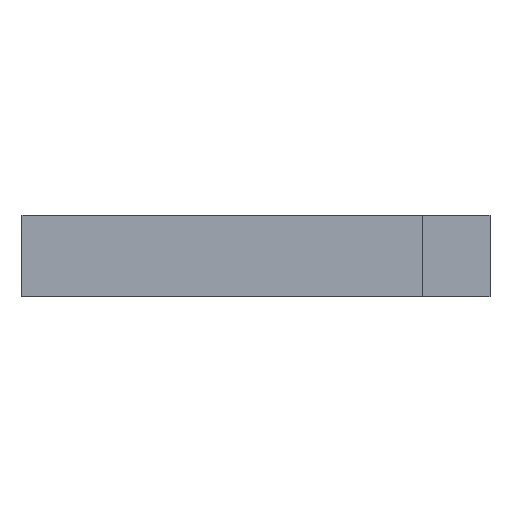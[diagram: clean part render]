
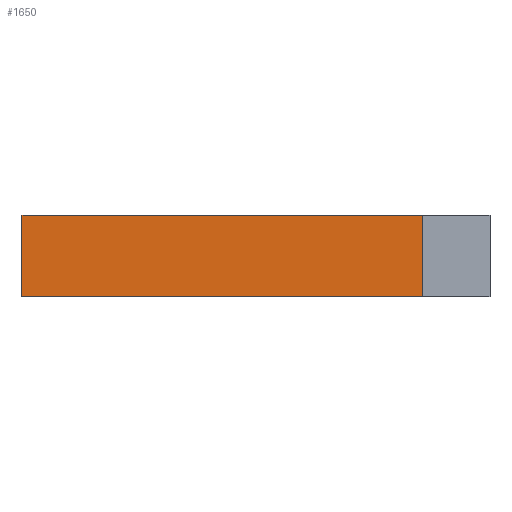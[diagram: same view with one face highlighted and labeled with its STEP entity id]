
A CAD part, front view. The second image highlights one B-rep face of the part: STEP entity #1650.
In plain terms, the highlighted planar face has unit normal (0, -1, 0).
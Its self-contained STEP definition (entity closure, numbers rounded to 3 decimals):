
#22 = VERTEX_POINT('',#23);
#23 = CARTESIAN_POINT('',(32.1,-3.5,-4.5));
#32 = PLANE('',#33);
#33 = AXIS2_PLACEMENT_3D('',#34,#35,#36);
#34 = CARTESIAN_POINT('',(32.1,0.,-5.7));
#35 = DIRECTION('',(1.,0.,0.));
#36 = DIRECTION('',(0.,0.,1.));
#44 = PLANE('',#45);
#45 = AXIS2_PLACEMENT_3D('',#46,#47,#48);
#46 = CARTESIAN_POINT('',(32.1,0.,-4.5));
#47 = DIRECTION('',(0.,0.,1.));
#48 = DIRECTION('',(1.,0.,0.));
#56 = EDGE_CURVE('',#57,#22,#59,.T.);
#57 = VERTEX_POINT('',#58);
#58 = CARTESIAN_POINT('',(32.1,-3.5,-5.7));
#59 = SURFACE_CURVE('',#60,(#64,#71),.PCURVE_S1.);
#60 = LINE('',#61,#62);
#61 = CARTESIAN_POINT('',(32.1,-3.5,-5.7));
#62 = VECTOR('',#63,1.);
#63 = DIRECTION('',(0.,0.,1.));
#64 = PCURVE('',#32,#65);
#65 = DEFINITIONAL_REPRESENTATION('',(#66),#70);
#66 = LINE('',#67,#68);
#67 = CARTESIAN_POINT('',(0.,3.5));
#68 = VECTOR('',#69,1.);
#69 = DIRECTION('',(1.,0.));
#70 = ( GEOMETRIC_REPRESENTATION_CONTEXT(2) 
PARAMETRIC_REPRESENTATION_CONTEXT() REPRESENTATION_CONTEXT('2D SPACE',''
  ) );
#71 = PCURVE('',#72,#77);
#72 = PLANE('',#73);
#73 = AXIS2_PLACEMENT_3D('',#74,#75,#76);
#74 = CARTESIAN_POINT('',(32.1,-3.5,-5.7));
#75 = DIRECTION('',(0.,1.,0.));
#76 = DIRECTION('',(0.,0.,1.));
#77 = DEFINITIONAL_REPRESENTATION('',(#78),#82);
#78 = LINE('',#79,#80);
#79 = CARTESIAN_POINT('',(0.,0.));
#80 = VECTOR('',#81,1.);
#81 = DIRECTION('',(1.,0.));
#82 = ( GEOMETRIC_REPRESENTATION_CONTEXT(2) 
PARAMETRIC_REPRESENTATION_CONTEXT() REPRESENTATION_CONTEXT('2D SPACE',''
  ) );
#100 = PLANE('',#101);
#101 = AXIS2_PLACEMENT_3D('',#102,#103,#104);
#102 = CARTESIAN_POINT('',(32.1,0.,-5.7));
#103 = DIRECTION('',(0.,0.,1.));
#104 = DIRECTION('',(1.,0.,0.));
#142 = EDGE_CURVE('',#22,#143,#145,.T.);
#143 = VERTEX_POINT('',#144);
#144 = CARTESIAN_POINT('',(38.,-3.5,-4.5));
#145 = SURFACE_CURVE('',#146,(#150,#157),.PCURVE_S1.);
#146 = LINE('',#147,#148);
#147 = CARTESIAN_POINT('',(32.1,-3.5,-4.5));
#148 = VECTOR('',#149,1.);
#149 = DIRECTION('',(1.,0.,0.));
#150 = PCURVE('',#44,#151);
#151 = DEFINITIONAL_REPRESENTATION('',(#152),#156);
#152 = LINE('',#153,#154);
#153 = CARTESIAN_POINT('',(0.,-3.5));
#154 = VECTOR('',#155,1.);
#155 = DIRECTION('',(1.,0.));
#156 = ( GEOMETRIC_REPRESENTATION_CONTEXT(2) 
PARAMETRIC_REPRESENTATION_CONTEXT() REPRESENTATION_CONTEXT('2D SPACE',''
  ) );
#157 = PCURVE('',#72,#158);
#158 = DEFINITIONAL_REPRESENTATION('',(#159),#163);
#159 = LINE('',#160,#161);
#160 = CARTESIAN_POINT('',(1.2,0.));
#161 = VECTOR('',#162,1.);
#162 = DIRECTION('',(0.,1.));
#163 = ( GEOMETRIC_REPRESENTATION_CONTEXT(2) 
PARAMETRIC_REPRESENTATION_CONTEXT() REPRESENTATION_CONTEXT('2D SPACE',''
  ) );
#181 = PLANE('',#182);
#182 = AXIS2_PLACEMENT_3D('',#183,#184,#185);
#183 = CARTESIAN_POINT('',(38.,-3.5,-5.7));
#184 = DIRECTION('',(1.,0.,0.));
#185 = DIRECTION('',(0.,0.,1.));
#847 = EDGE_CURVE('',#57,#848,#850,.T.);
#848 = VERTEX_POINT('',#849);
#849 = CARTESIAN_POINT('',(38.,-3.5,-5.7));
#850 = SURFACE_CURVE('',#851,(#855,#862),.PCURVE_S1.);
#851 = LINE('',#852,#853);
#852 = CARTESIAN_POINT('',(32.1,-3.5,-5.7));
#853 = VECTOR('',#854,1.);
#854 = DIRECTION('',(1.,0.,0.));
#855 = PCURVE('',#100,#856);
#856 = DEFINITIONAL_REPRESENTATION('',(#857),#861);
#857 = LINE('',#858,#859);
#858 = CARTESIAN_POINT('',(0.,-3.5));
#859 = VECTOR('',#860,1.);
#860 = DIRECTION('',(1.,0.));
#861 = ( GEOMETRIC_REPRESENTATION_CONTEXT(2) 
PARAMETRIC_REPRESENTATION_CONTEXT() REPRESENTATION_CONTEXT('2D SPACE',''
  ) );
#862 = PCURVE('',#72,#863);
#863 = DEFINITIONAL_REPRESENTATION('',(#864),#868);
#864 = LINE('',#865,#866);
#865 = CARTESIAN_POINT('',(0.,0.));
#866 = VECTOR('',#867,1.);
#867 = DIRECTION('',(0.,1.));
#868 = ( GEOMETRIC_REPRESENTATION_CONTEXT(2) 
PARAMETRIC_REPRESENTATION_CONTEXT() REPRESENTATION_CONTEXT('2D SPACE',''
  ) );
#1650 = ADVANCED_FACE('',(#1651),#72,.F.);
#1651 = FACE_BOUND('',#1652,.F.);
#1652 = EDGE_LOOP('',(#1653,#1654,#1655,#1656));
#1653 = ORIENTED_EDGE('',*,*,#847,.F.);
#1654 = ORIENTED_EDGE('',*,*,#56,.T.);
#1655 = ORIENTED_EDGE('',*,*,#142,.T.);
#1656 = ORIENTED_EDGE('',*,*,#1657,.F.);
#1657 = EDGE_CURVE('',#848,#143,#1658,.T.);
#1658 = SURFACE_CURVE('',#1659,(#1663,#1670),.PCURVE_S1.);
#1659 = LINE('',#1660,#1661);
#1660 = CARTESIAN_POINT('',(38.,-3.5,-5.7));
#1661 = VECTOR('',#1662,1.);
#1662 = DIRECTION('',(0.,0.,1.));
#1663 = PCURVE('',#72,#1664);
#1664 = DEFINITIONAL_REPRESENTATION('',(#1665),#1669);
#1665 = LINE('',#1666,#1667);
#1666 = CARTESIAN_POINT('',(0.,5.9));
#1667 = VECTOR('',#1668,1.);
#1668 = DIRECTION('',(1.,0.));
#1669 = ( GEOMETRIC_REPRESENTATION_CONTEXT(2) 
PARAMETRIC_REPRESENTATION_CONTEXT() REPRESENTATION_CONTEXT('2D SPACE',''
  ) );
#1670 = PCURVE('',#181,#1671);
#1671 = DEFINITIONAL_REPRESENTATION('',(#1672),#1676);
#1672 = LINE('',#1673,#1674);
#1673 = CARTESIAN_POINT('',(0.,0.));
#1674 = VECTOR('',#1675,1.);
#1675 = DIRECTION('',(1.,0.));
#1676 = ( GEOMETRIC_REPRESENTATION_CONTEXT(2) 
PARAMETRIC_REPRESENTATION_CONTEXT() REPRESENTATION_CONTEXT('2D SPACE',''
  ) );
